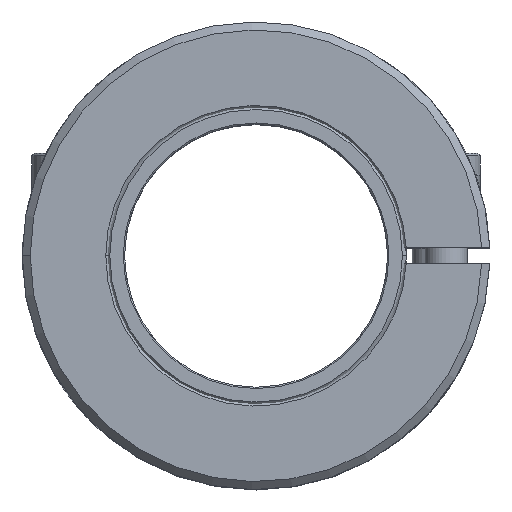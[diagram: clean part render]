
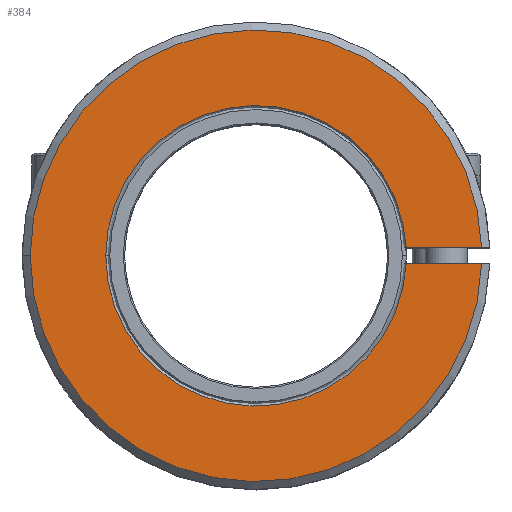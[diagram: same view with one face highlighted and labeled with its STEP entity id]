
A CAD part, top view. The second image highlights one B-rep face of the part: STEP entity #384.
In plain terms, the highlighted planar face has unit normal (0, 0, 1).
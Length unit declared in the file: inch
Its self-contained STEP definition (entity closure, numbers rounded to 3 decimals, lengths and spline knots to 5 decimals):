
#384 = ADVANCED_FACE( '', ( #647 ), #648, .T. );
#647 = FACE_OUTER_BOUND( '', #917, .T. );
#648 = PLANE( '', #918 );
#917 = EDGE_LOOP( '', ( #1845, #1846, #1847, #1848, #1849, #1850 ) );
#918 = AXIS2_PLACEMENT_3D( '', #1851, #1852, #1853 );
#1845 = ORIENTED_EDGE( '', *, *, #2191, .T. );
#1846 = ORIENTED_EDGE( '', *, *, #2193, .F. );
#1847 = ORIENTED_EDGE( '', *, *, #2146, .F. );
#1848 = ORIENTED_EDGE( '', *, *, #2183, .T. );
#1849 = ORIENTED_EDGE( '', *, *, #2192, .F. );
#1850 = ORIENTED_EDGE( '', *, *, #2162, .F. );
#1851 = CARTESIAN_POINT( '', ( 0., 0., 0.875 ) );
#1852 = DIRECTION( '', ( 0., 0., 1. ) );
#1853 = DIRECTION( '', ( 1., 0., 0. ) );
#2146 = EDGE_CURVE( '', #2603, #2599, #2605, .T. );
#2162 = EDGE_CURVE( '', #2633, #2629, #2635, .T. );
#2183 = EDGE_CURVE( '', #2603, #2666, #2668, .T. );
#2191 = EDGE_CURVE( '', #2633, #2679, #2681, .T. );
#2192 = EDGE_CURVE( '', #2629, #2666, #2682, .T. );
#2193 = EDGE_CURVE( '', #2599, #2679, #2683, .T. );
#2599 = VERTEX_POINT( '', #3485 );
#2603 = VERTEX_POINT( '', #3490 );
#2605 = CIRCLE( '', #3493, 0.5625 );
#2629 = VERTEX_POINT( '', #3540 );
#2633 = VERTEX_POINT( '', #3545 );
#2635 = CIRCLE( '', #3548, 0.845 );
#2666 = VERTEX_POINT( '', #3626 );
#2668 = LINE( '', #3629, #3630 );
#2679 = VERTEX_POINT( '', #3647 );
#2681 = LINE( '', #3650, #3651 );
#2682 = CIRCLE( '', #3652, 0.845 );
#2683 = CIRCLE( '', #3653, 0.5625 );
#3485 = CARTESIAN_POINT( '', ( -0.5625, 0., 0.875 ) );
#3490 = CARTESIAN_POINT( '', ( 0.5617, 0.03, 0.875 ) );
#3493 = AXIS2_PLACEMENT_3D( '', #4072, #4073, #4074 );
#3540 = CARTESIAN_POINT( '', ( -0.845, 0., 0.875 ) );
#3545 = CARTESIAN_POINT( '', ( 0.84447, -0.03, 0.875 ) );
#3548 = AXIS2_PLACEMENT_3D( '', #4100, #4101, #4102 );
#3626 = CARTESIAN_POINT( '', ( 0.84447, 0.03, 0.875 ) );
#3629 = CARTESIAN_POINT( '', ( 1.19498, 0.03, 0.875 ) );
#3630 = VECTOR( '', #4137, 1. );
#3647 = CARTESIAN_POINT( '', ( 0.5617, -0.03, 0.875 ) );
#3650 = CARTESIAN_POINT( '', ( 0., -0.03, 0.875 ) );
#3651 = VECTOR( '', #4145, 1. );
#3652 = AXIS2_PLACEMENT_3D( '', #4146, #4147, #4148 );
#3653 = AXIS2_PLACEMENT_3D( '', #4149, #4150, #4151 );
#4072 = CARTESIAN_POINT( '', ( 0., 0., 0.875 ) );
#4073 = DIRECTION( '', ( 0., 0., 1. ) );
#4074 = DIRECTION( '', ( -1., 0., 0. ) );
#4100 = CARTESIAN_POINT( '', ( 0., 0., 0.875 ) );
#4101 = DIRECTION( '', ( 0., 0., -1. ) );
#4102 = DIRECTION( '', ( -1., 0., 0. ) );
#4137 = DIRECTION( '', ( 1., 0., 0. ) );
#4145 = DIRECTION( '', ( -1., 0., 0. ) );
#4146 = CARTESIAN_POINT( '', ( 0., 0., 0.875 ) );
#4147 = DIRECTION( '', ( 0., 0., -1. ) );
#4148 = DIRECTION( '', ( -1., 0., 0. ) );
#4149 = CARTESIAN_POINT( '', ( 0., 0., 0.875 ) );
#4150 = DIRECTION( '', ( 0., 0., 1. ) );
#4151 = DIRECTION( '', ( -1., 0., 0. ) );
